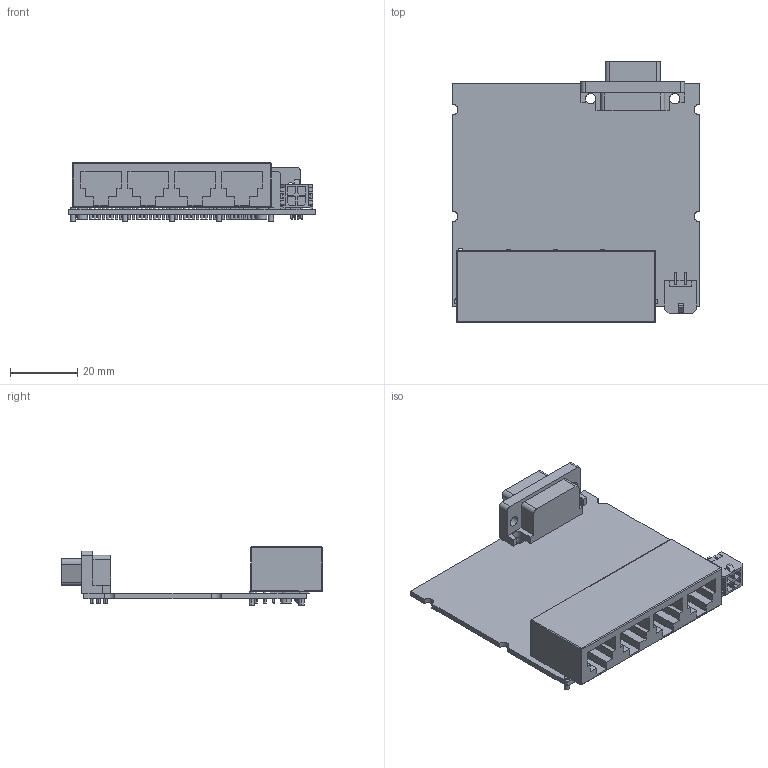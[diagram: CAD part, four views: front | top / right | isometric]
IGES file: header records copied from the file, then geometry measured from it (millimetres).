
Start section:  PTC IGES file: cd_ni_9237e.igs
Global section: file name: cd_ni_9237e.igs; native system: Pro/ENGINEER by Parametric Technology Corporation; preprocessor: 2006080; author: scarrasc; organization: Unknown; date: 100204.154536; units: inch
Bounding box: 73.38 x 77.5 x 17.35 mm (x, y, z)
Surface area: 19234.7 mm2 (no closed solid volume)
Topology: 0 solids, 0 shells, 671 faces, 3438 edges, 3436 vertices
Faces by surface type: bspline 397, revolution 274
